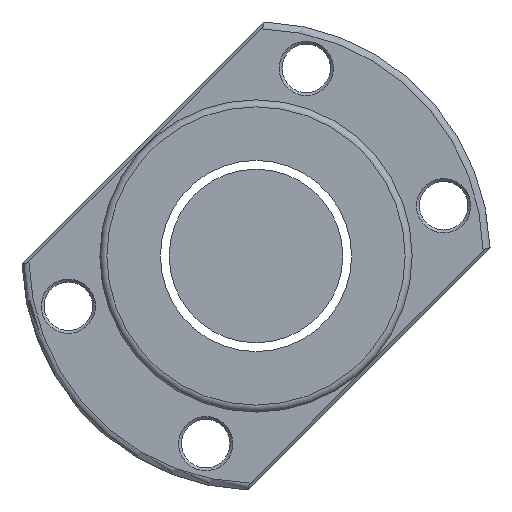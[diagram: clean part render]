
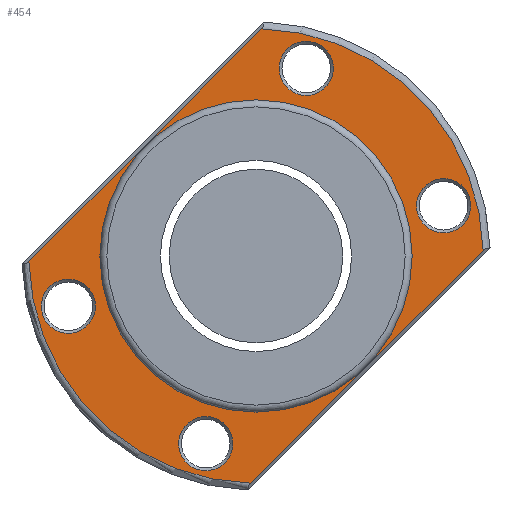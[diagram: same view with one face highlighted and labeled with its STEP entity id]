
A CAD part, left-side view. The second image highlights one B-rep face of the part: STEP entity #454.
In plain terms, the highlighted planar face has unit normal (-1, 0, 0).
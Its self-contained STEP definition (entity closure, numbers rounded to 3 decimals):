
#21 = VERTEX_POINT ( 'NONE', #1416 ) ;
#134 = ORIENTED_EDGE ( 'NONE', *, *, #2142, .T. ) ;
#194 = FACE_OUTER_BOUND ( 'NONE', #884, .T. ) ;
#232 = CARTESIAN_POINT ( 'NONE',  ( -89.5, 54.092, -6.694 ) ) ;
#270 = CARTESIAN_POINT ( 'NONE',  ( -89.5, -1.559, 65.481 ) ) ;
#282 = CARTESIAN_POINT ( 'NONE',  ( -89.5, -54.092, 14.494 ) ) ;
#327 = CARTESIAN_POINT ( 'NONE',  ( -89.5, 1.559, -65.481 ) ) ;
#342 = AXIS2_PLACEMENT_3D ( 'NONE', #282, #2864, #1542 ) ;
#454 = ADVANCED_FACE ( 'NONE', ( #3013, #1617, #1842, #2775, #671, #194 ), #660, .T. ) ;
#475 = DIRECTION ( 'NONE',  ( 0., 0., 1. ) ) ;
#480 = VERTEX_POINT ( 'NONE', #1450 ) ;
#493 = ORIENTED_EDGE ( 'NONE', *, *, #2928, .T. ) ;
#510 = DIRECTION ( 'NONE',  ( 0., -0.707, 0.707 ) ) ;
#556 = CIRCLE ( 'NONE', #888, 7.8 ) ;
#636 = EDGE_CURVE ( 'NONE', #2056, #2056, #1884, .T. ) ;
#660 = PLANE ( 'NONE',  #2624 ) ;
#671 = FACE_BOUND ( 'NONE', #2331, .T. ) ;
#718 = EDGE_CURVE ( 'NONE', #2253, #1382, #2361, .T. ) ;
#728 = VERTEX_POINT ( 'NONE', #2838 ) ;
#833 = EDGE_CURVE ( 'NONE', #2808, #2808, #556, .T. ) ;
#863 = EDGE_CURVE ( 'NONE', #21, #21, #1939, .T. ) ;
#877 = CARTESIAN_POINT ( 'NONE',  ( -89.5, 54.092, -14.494 ) ) ;
#878 = DIRECTION ( 'NONE',  ( 0., 0., 1. ) ) ;
#884 = EDGE_LOOP ( 'NONE', ( #1845, #2147, #134, #493 ) ) ;
#887 = DIRECTION ( 'NONE',  ( 0., 0., 1. ) ) ;
#888 = AXIS2_PLACEMENT_3D ( 'NONE', #1242, #2392, #2851 ) ;
#973 = ORIENTED_EDGE ( 'NONE', *, *, #2326, .T. ) ;
#974 = CARTESIAN_POINT ( 'NONE',  ( -89.5, -65.481, 1.559 ) ) ;
#1013 = VERTEX_POINT ( 'NONE', #270 ) ;
#1166 = CARTESIAN_POINT ( 'NONE',  ( -89.5, -14.494, 54.092 ) ) ;
#1173 = ORIENTED_EDGE ( 'NONE', *, *, #1454, .T. ) ;
#1242 = CARTESIAN_POINT ( 'NONE',  ( -89.5, 14.494, -54.092 ) ) ;
#1330 = CIRCLE ( 'NONE', #2320, 65.5 ) ;
#1333 = ORIENTED_EDGE ( 'NONE', *, *, #636, .T. ) ;
#1379 = AXIS2_PLACEMENT_3D ( 'NONE', #877, #2842, #1922 ) ;
#1382 = VERTEX_POINT ( 'NONE', #974 ) ;
#1405 = DIRECTION ( 'NONE',  ( 0., 0.707, -0.707 ) ) ;
#1416 = CARTESIAN_POINT ( 'NONE',  ( -89.5, 0., -45. ) ) ;
#1435 = EDGE_LOOP ( 'NONE', ( #1333 ) ) ;
#1450 = CARTESIAN_POINT ( 'NONE',  ( -89.5, -54.092, 22.294 ) ) ;
#1454 = EDGE_CURVE ( 'NONE', #480, #480, #1774, .T. ) ;
#1455 = CARTESIAN_POINT ( 'NONE',  ( -89.5, 65.711, -1.789 ) ) ;
#1462 = DIRECTION ( 'NONE',  ( 1., 0., 0. ) ) ;
#1509 = EDGE_CURVE ( 'NONE', #1382, #1013, #2224, .T. ) ;
#1542 = DIRECTION ( 'NONE',  ( 0., 0., 1. ) ) ;
#1606 = DIRECTION ( 'NONE',  ( -1., 0., 0. ) ) ;
#1617 = FACE_BOUND ( 'NONE', #2169, .T. ) ;
#1692 = VERTEX_POINT ( 'NONE', #232 ) ;
#1693 = VECTOR ( 'NONE', #510, 1000. ) ;
#1723 = CARTESIAN_POINT ( 'NONE',  ( -89.5, 0., 0. ) ) ;
#1774 = CIRCLE ( 'NONE', #342, 7.8 ) ;
#1816 = EDGE_LOOP ( 'NONE', ( #973 ) ) ;
#1831 = AXIS2_PLACEMENT_3D ( 'NONE', #1723, #1909, #2654 ) ;
#1842 = FACE_BOUND ( 'NONE', #1435, .T. ) ;
#1845 = ORIENTED_EDGE ( 'NONE', *, *, #718, .T. ) ;
#1853 = DIRECTION ( 'NONE',  ( -1., 0., 0. ) ) ;
#1865 = DIRECTION ( 'NONE',  ( -1., 0., 0. ) ) ;
#1884 = CIRCLE ( 'NONE', #2380, 7.8 ) ;
#1909 = DIRECTION ( 'NONE',  ( 1., 0., 0. ) ) ;
#1922 = DIRECTION ( 'NONE',  ( 0., 0., 1. ) ) ;
#1939 = CIRCLE ( 'NONE', #1831, 45. ) ;
#2056 = VERTEX_POINT ( 'NONE', #2990 ) ;
#2142 = EDGE_CURVE ( 'NONE', #1013, #728, #2355, .T. ) ;
#2147 = ORIENTED_EDGE ( 'NONE', *, *, #1509, .T. ) ;
#2169 = EDGE_LOOP ( 'NONE', ( #1173 ) ) ;
#2224 = CIRCLE ( 'NONE', #2801, 65.5 ) ;
#2226 = VECTOR ( 'NONE', #1405, 1000. ) ;
#2253 = VERTEX_POINT ( 'NONE', #327 ) ;
#2320 = AXIS2_PLACEMENT_3D ( 'NONE', #2550, #1853, #878 ) ;
#2326 = EDGE_CURVE ( 'NONE', #1692, #1692, #2515, .T. ) ;
#2331 = EDGE_LOOP ( 'NONE', ( #2750 ) ) ;
#2345 = CARTESIAN_POINT ( 'NONE',  ( -89.5, 1.789, -65.711 ) ) ;
#2355 = LINE ( 'NONE', #1455, #2226 ) ;
#2361 = LINE ( 'NONE', #2345, #1693 ) ;
#2380 = AXIS2_PLACEMENT_3D ( 'NONE', #1166, #1462, #475 ) ;
#2392 = DIRECTION ( 'NONE',  ( 1., 0., 0. ) ) ;
#2515 = CIRCLE ( 'NONE', #1379, 7.8 ) ;
#2530 = CARTESIAN_POINT ( 'NONE',  ( -89.5, 0., 0. ) ) ;
#2550 = CARTESIAN_POINT ( 'NONE',  ( -89.5, 0., 0. ) ) ;
#2582 = CARTESIAN_POINT ( 'NONE',  ( -89.5, 14.494, -46.292 ) ) ;
#2624 = AXIS2_PLACEMENT_3D ( 'NONE', #2766, #1606, #2960 ) ;
#2647 = ORIENTED_EDGE ( 'NONE', *, *, #833, .T. ) ;
#2654 = DIRECTION ( 'NONE',  ( 0., 0., -1. ) ) ;
#2750 = ORIENTED_EDGE ( 'NONE', *, *, #863, .T. ) ;
#2762 = EDGE_LOOP ( 'NONE', ( #2647 ) ) ;
#2766 = CARTESIAN_POINT ( 'NONE',  ( -89.5, 67.5, 0. ) ) ;
#2775 = FACE_BOUND ( 'NONE', #1816, .T. ) ;
#2801 = AXIS2_PLACEMENT_3D ( 'NONE', #2530, #1865, #887 ) ;
#2808 = VERTEX_POINT ( 'NONE', #2582 ) ;
#2838 = CARTESIAN_POINT ( 'NONE',  ( -89.5, 65.481, -1.559 ) ) ;
#2842 = DIRECTION ( 'NONE',  ( 1., 0., 0. ) ) ;
#2851 = DIRECTION ( 'NONE',  ( 0., 0., 1. ) ) ;
#2864 = DIRECTION ( 'NONE',  ( 1., 0., 0. ) ) ;
#2928 = EDGE_CURVE ( 'NONE', #728, #2253, #1330, .T. ) ;
#2960 = DIRECTION ( 'NONE',  ( 0., 0., 1. ) ) ;
#2990 = CARTESIAN_POINT ( 'NONE',  ( -89.5, -14.494, 61.892 ) ) ;
#3013 = FACE_BOUND ( 'NONE', #2762, .T. ) ;
